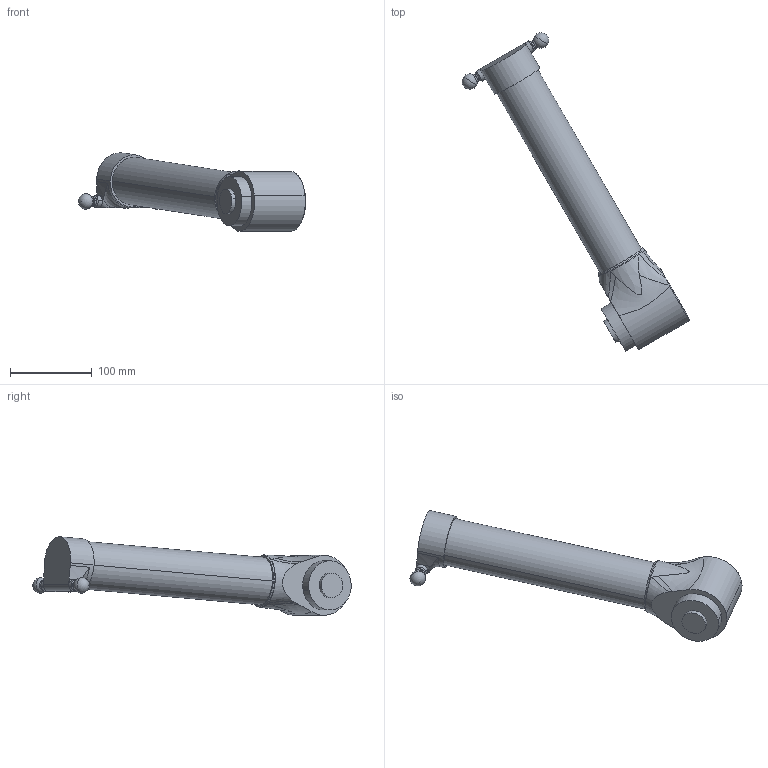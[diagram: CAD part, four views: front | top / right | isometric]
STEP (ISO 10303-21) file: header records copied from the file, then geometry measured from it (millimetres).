
FILE_DESCRIPTION (( 'STEP AP214' ), '1' );
FILE_NAME ('IRB360_8-1130-STD-4D_rev03_UA3_CAD.STEP', '2025-01-10T15:33:07', ( '' ), ( '' ), 'SwSTEP 2.0', 'SolidWorks 2022', '' );
FILE_SCHEMA (( 'AUTOMOTIVE_DESIGN' ));
Length unit declared in the file: millimetre
Products named in the file (1): IRB360_8-1130-STD-4D_rev03_UA3_CAD
Bounding box: 277.65 x 388.51 x 95.8 mm (x, y, z)
Volume: 1285188.1 mm3; surface area: 93656.6 mm2
Topology: 1 solids, 1 shells, 71 faces, 170 edges, 105 vertices
Faces by surface type: cylinder 17, bspline 17, torus 14, plane 10, cone 9, sphere 4
Entity records: 15361 total; most frequent: CARTESIAN_POINT 13386, ORIENTED_EDGE 320, DIRECTION 281, EDGE_CURVE 160, AXIS2_PLACEMENT_3D 126, VERTEX_POINT 99, EDGE_LOOP 79, ADVANCED_FACE 71
